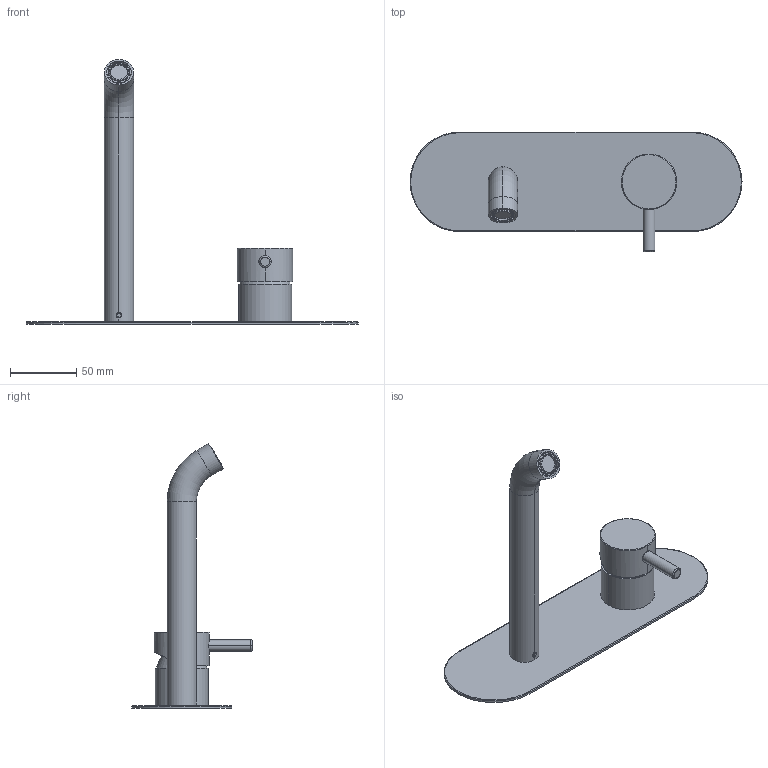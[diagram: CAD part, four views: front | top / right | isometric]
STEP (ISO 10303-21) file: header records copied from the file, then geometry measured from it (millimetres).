
FILE_DESCRIPTION((''),'2;1');
FILE_NAME('12532_SW0001','2024-03-19T15:51:05',('carloff'),(''),'CREO PARAMETRIC BY PTC INC, 2022014','CREO PARAMETRIC BY PTC INC, 2022014','');
FILE_SCHEMA(('CONFIG_CONTROL_DESIGN'));
Products named in the file (1): 12532_SW0001
Bounding box: 250 x 90.4 x 199.53 mm (x, y, z)
Volume: 116272.6 mm3; surface area: 106388.8 mm2
Topology: 5 solids, 5 shells, 808 faces, 2313 edges, 1517 vertices
Faces by surface type: plane 313, cylinder 307, cone 76, torus 68, bspline 38, sphere 6
Entity records: 50438 total; most frequent: CARTESIAN_POINT 29516, ORIENTED_EDGE 4618, DIRECTION 4148, EDGE_CURVE 2309, AXIS2_PLACEMENT_3D 1527, VERTEX_POINT 1517, VECTOR 1094, LINE 1094
